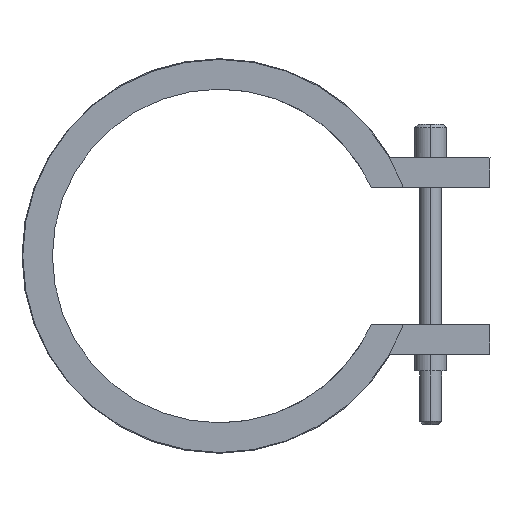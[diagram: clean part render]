
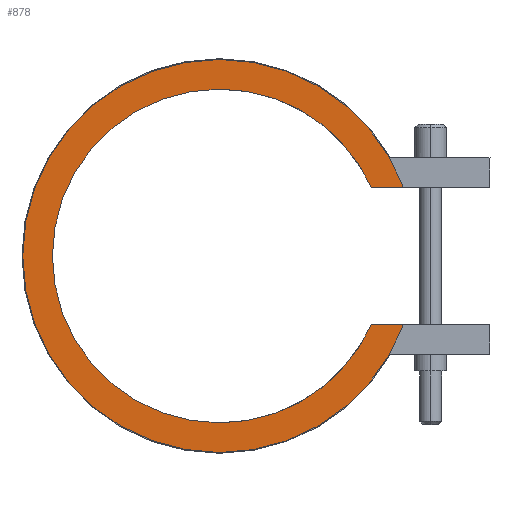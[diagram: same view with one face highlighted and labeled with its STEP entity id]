
A CAD part, left-side view. The second image highlights one B-rep face of the part: STEP entity #878.
In plain terms, the highlighted planar face has unit normal (-1, 0, 0).
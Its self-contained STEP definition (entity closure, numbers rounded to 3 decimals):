
#416=CARTESIAN_POINT('Vertex',(-22.5,-20.511,-9.25)) ;
#419=CARTESIAN_POINT('Line Origine',(-22.5,-22.672,-9.25)) ;
#423=CARTESIAN_POINT('Vertex',(-22.5,-24.833,-9.25)) ;
#469=CARTESIAN_POINT('Vertex',(-22.5,0.,-26.5)) ;
#472=CARTESIAN_POINT('Axis2P3D Location',(-22.5,0.,0.)) ;
#493=CARTESIAN_POINT('Vertex',(-22.5,0.,26.5)) ;
#496=CARTESIAN_POINT('Axis2P3D Location',(-22.5,0.,0.)) ;
#508=CARTESIAN_POINT('Axis2P3D Location',(-22.5,0.,0.)) ;
#512=CARTESIAN_POINT('Vertex',(-22.5,-24.833,9.25)) ;
#532=CARTESIAN_POINT('Line Origine',(-22.5,-22.672,9.25)) ;
#536=CARTESIAN_POINT('Vertex',(-22.5,-20.511,9.25)) ;
#824=CARTESIAN_POINT('Axis2P3D Location',(-22.5,0.,0.)) ;
#828=CARTESIAN_POINT('Vertex',(-22.5,0.,-22.5)) ;
#851=CARTESIAN_POINT('Axis2P3D Location',(-22.5,0.,0.)) ;
#856=CARTESIAN_POINT('Axis2P3D Location',(-22.5,0.,0.)) ;
#860=CARTESIAN_POINT('Vertex',(-22.5,0.,22.5)) ;
#863=CARTESIAN_POINT('Axis2P3D Location',(-22.5,0.,0.)) ;
#420=DIRECTION('Vector Direction',(0.,1.,0.)) ;
#473=DIRECTION('Axis2P3D Direction',(1.,0.,-0.)) ;
#497=DIRECTION('Axis2P3D Direction',(1.,0.,-0.)) ;
#509=DIRECTION('Axis2P3D Direction',(1.,0.,-0.)) ;
#533=DIRECTION('Vector Direction',(0.,-1.,0.)) ;
#825=DIRECTION('Axis2P3D Direction',(1.,0.,-0.)) ;
#852=DIRECTION('Axis2P3D Direction',(1.,0.,0.)) ;
#853=DIRECTION('Axis2P3D XDirection',(0.,0.,-1.)) ;
#857=DIRECTION('Axis2P3D Direction',(1.,0.,0.)) ;
#864=DIRECTION('Axis2P3D Direction',(1.,0.,0.)) ;
#474=AXIS2_PLACEMENT_3D('Circle Axis2P3D',#472,#473,$) ;
#498=AXIS2_PLACEMENT_3D('Circle Axis2P3D',#496,#497,$) ;
#510=AXIS2_PLACEMENT_3D('Circle Axis2P3D',#508,#509,$) ;
#826=AXIS2_PLACEMENT_3D('Circle Axis2P3D',#824,#825,$) ;
#854=AXIS2_PLACEMENT_3D('Plane Axis2P3D',#851,#852,#853) ;
#858=AXIS2_PLACEMENT_3D('Circle Axis2P3D',#856,#857,$) ;
#865=AXIS2_PLACEMENT_3D('Circle Axis2P3D',#863,#864,$) ;
#869=ORIENTED_EDGE('',*,*,#425,.T.) ;
#870=ORIENTED_EDGE('',*,*,#830,.T.) ;
#871=ORIENTED_EDGE('',*,*,#862,.T.) ;
#872=ORIENTED_EDGE('',*,*,#867,.T.) ;
#873=ORIENTED_EDGE('',*,*,#538,.T.) ;
#874=ORIENTED_EDGE('',*,*,#514,.F.) ;
#875=ORIENTED_EDGE('',*,*,#500,.F.) ;
#876=ORIENTED_EDGE('',*,*,#476,.F.) ;
#421=VECTOR('Line Direction',#420,1.) ;
#534=VECTOR('Line Direction',#533,1.) ;
#878=ADVANCED_FACE('14045045',(#877),#855,.F.) ;
#475=CIRCLE('generated circle',#474,26.5) ;
#499=CIRCLE('generated circle',#498,26.5) ;
#511=CIRCLE('generated circle',#510,26.5) ;
#827=CIRCLE('generated circle',#826,22.5) ;
#859=CIRCLE('generated circle',#858,22.5) ;
#866=CIRCLE('generated circle',#865,22.5) ;
#425=EDGE_CURVE('',#424,#417,#422,.T.) ;
#476=EDGE_CURVE('',#424,#470,#475,.T.) ;
#500=EDGE_CURVE('',#470,#494,#499,.T.) ;
#514=EDGE_CURVE('',#494,#513,#511,.T.) ;
#538=EDGE_CURVE('',#537,#513,#535,.T.) ;
#830=EDGE_CURVE('',#417,#829,#827,.T.) ;
#862=EDGE_CURVE('',#829,#861,#859,.T.) ;
#867=EDGE_CURVE('',#861,#537,#866,.T.) ;
#868=EDGE_LOOP('',(#869,#870,#871,#872,#873,#874,#875,#876)) ;
#877=FACE_OUTER_BOUND('',#868,.T.) ;
#422=LINE('Line',#419,#421) ;
#535=LINE('Line',#532,#534) ;
#855=PLANE('Plane',#854) ;
#417=VERTEX_POINT('',#416) ;
#424=VERTEX_POINT('',#423) ;
#470=VERTEX_POINT('',#469) ;
#494=VERTEX_POINT('',#493) ;
#513=VERTEX_POINT('',#512) ;
#537=VERTEX_POINT('',#536) ;
#829=VERTEX_POINT('',#828) ;
#861=VERTEX_POINT('',#860) ;
